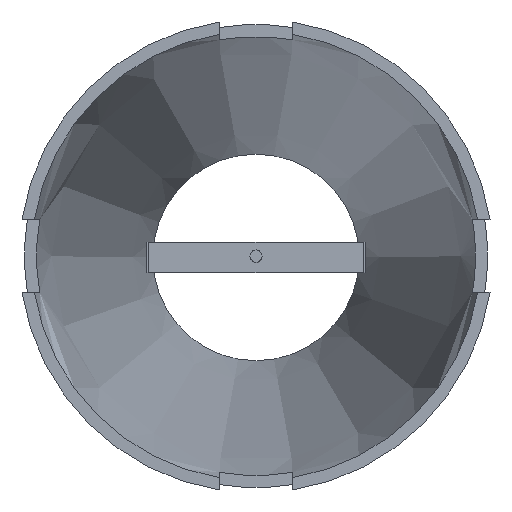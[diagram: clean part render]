
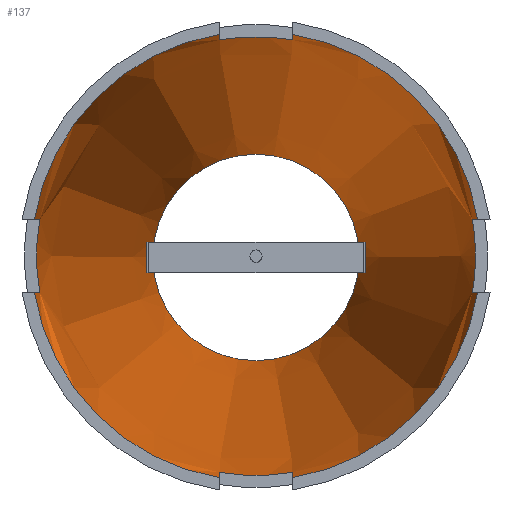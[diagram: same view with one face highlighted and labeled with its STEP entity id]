
A CAD part, top view. The second image highlights one B-rep face of the part: STEP entity #137.
In plain terms, the highlighted conical face has half-angle 8.306 degrees and reference radius 85 mm.
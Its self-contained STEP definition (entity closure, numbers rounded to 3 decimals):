
#137 = ADVANCED_FACE( '', ( #254, #255 ), #256, .F. );
#254 = FACE_OUTER_BOUND( '', #368, .T. );
#255 = FACE_BOUND( '', #369, .T. );
#256 = CONICAL_SURFACE( '', #370, 85., 0.145 );
#368 = EDGE_LOOP( '', ( #533, #534, #535, #536, #537, #538, #539, #540, #541, #542, #543, #544, #545, #546, #547, #548 ) );
#369 = EDGE_LOOP( '', ( #549 ) );
#370 = AXIS2_PLACEMENT_3D( '', #550, #551, #552 );
#533 = ORIENTED_EDGE( '', *, *, #775, .F. );
#534 = ORIENTED_EDGE( '', *, *, #776, .T. );
#535 = ORIENTED_EDGE( '', *, *, #772, .F. );
#536 = ORIENTED_EDGE( '', *, *, #746, .T. );
#537 = ORIENTED_EDGE( '', *, *, #777, .F. );
#538 = ORIENTED_EDGE( '', *, *, #778, .T. );
#539 = ORIENTED_EDGE( '', *, *, #729, .F. );
#540 = ORIENTED_EDGE( '', *, *, #779, .T. );
#541 = ORIENTED_EDGE( '', *, *, #780, .F. );
#542 = ORIENTED_EDGE( '', *, *, #781, .T. );
#543 = ORIENTED_EDGE( '', *, *, #782, .F. );
#544 = ORIENTED_EDGE( '', *, *, #783, .T. );
#545 = ORIENTED_EDGE( '', *, *, #734, .F. );
#546 = ORIENTED_EDGE( '', *, *, #743, .T. );
#547 = ORIENTED_EDGE( '', *, *, #784, .F. );
#548 = ORIENTED_EDGE( '', *, *, #766, .T. );
#549 = ORIENTED_EDGE( '', *, *, #785, .F. );
#550 = CARTESIAN_POINT( '', ( 0., 0., 0. ) );
#551 = DIRECTION( '', ( 0., 0., 1. ) );
#552 = DIRECTION( '', ( 1., 0., 0. ) );
#729 = EDGE_CURVE( '', #845, #847, #848, .T. );
#734 = EDGE_CURVE( '', #853, #856, #857, .T. );
#743 = EDGE_CURVE( '', #853, #869, #871, .T. );
#746 = EDGE_CURVE( '', #876, #873, #877, .T. );
#766 = EDGE_CURVE( '', #906, #908, #910, .T. );
#772 = EDGE_CURVE( '', #876, #918, #919, .T. );
#775 = EDGE_CURVE( '', #922, #908, #923, .T. );
#776 = EDGE_CURVE( '', #922, #918, #924, .T. );
#777 = EDGE_CURVE( '', #925, #873, #926, .T. );
#778 = EDGE_CURVE( '', #925, #847, #927, .T. );
#779 = EDGE_CURVE( '', #845, #928, #929, .T. );
#780 = EDGE_CURVE( '', #930, #928, #931, .T. );
#781 = EDGE_CURVE( '', #930, #932, #933, .T. );
#782 = EDGE_CURVE( '', #934, #932, #935, .T. );
#783 = EDGE_CURVE( '', #934, #856, #936, .T. );
#784 = EDGE_CURVE( '', #906, #869, #937, .T. );
#785 = EDGE_CURVE( '', #938, #938, #939, .T. );
#845 = VERTEX_POINT( '', #1013 );
#847 = VERTEX_POINT( '', #1016 );
#848 = B_SPLINE_CURVE_WITH_KNOTS( '', 3, ( #1017, #1018, #1019, #1020 ), .UNSPECIFIED., .F., .F., ( 4, 4 ), ( 0.276, 0.306 ), .UNSPECIFIED. );
#853 = VERTEX_POINT( '', #1029 );
#856 = VERTEX_POINT( '', #1033 );
#857 = B_SPLINE_CURVE_WITH_KNOTS( '', 3, ( #1034, #1035, #1036, #1037 ), .UNSPECIFIED., .F., .F., ( 4, 4 ), ( 0.28, 0.31 ), .UNSPECIFIED. );
#869 = VERTEX_POINT( '', #1053 );
#871 = CIRCLE( '', #1056, 180.621 );
#873 = VERTEX_POINT( '', #1058 );
#876 = VERTEX_POINT( '', #1062 );
#877 = CIRCLE( '', #1063, 185. );
#906 = VERTEX_POINT( '', #1111 );
#908 = VERTEX_POINT( '', #1114 );
#910 = CIRCLE( '', #1117, 185. );
#918 = VERTEX_POINT( '', #1128 );
#919 = B_SPLINE_CURVE_WITH_KNOTS( '', 3, ( #1129, #1130, #1131, #1132 ), .UNSPECIFIED., .F., .F., ( 4, 4 ), ( 0.276, 0.306 ), .UNSPECIFIED. );
#922 = VERTEX_POINT( '', #1136 );
#923 = B_SPLINE_CURVE_WITH_KNOTS( '', 3, ( #1137, #1138, #1139, #1140 ), .UNSPECIFIED., .F., .F., ( 4, 4 ), ( 0.28, 0.31 ), .UNSPECIFIED. );
#924 = CIRCLE( '', #1141, 180.621 );
#925 = VERTEX_POINT( '', #1142 );
#926 = B_SPLINE_CURVE_WITH_KNOTS( '', 3, ( #1143, #1144, #1145, #1146 ), .UNSPECIFIED., .F., .F., ( 4, 4 ), ( 0.28, 0.31 ), .UNSPECIFIED. );
#927 = CIRCLE( '', #1147, 180.621 );
#928 = VERTEX_POINT( '', #1148 );
#929 = CIRCLE( '', #1149, 185. );
#930 = VERTEX_POINT( '', #1150 );
#931 = B_SPLINE_CURVE_WITH_KNOTS( '', 3, ( #1151, #1152, #1153, #1154 ), .UNSPECIFIED., .F., .F., ( 4, 4 ), ( 0.28, 0.31 ), .UNSPECIFIED. );
#932 = VERTEX_POINT( '', #1155 );
#933 = CIRCLE( '', #1156, 180.621 );
#934 = VERTEX_POINT( '', #1157 );
#935 = B_SPLINE_CURVE_WITH_KNOTS( '', 3, ( #1158, #1159, #1160, #1161 ), .UNSPECIFIED., .F., .F., ( 4, 4 ), ( 0.276, 0.306 ), .UNSPECIFIED. );
#936 = CIRCLE( '', #1162, 185. );
#937 = B_SPLINE_CURVE_WITH_KNOTS( '', 3, ( #1163, #1164, #1165, #1166 ), .UNSPECIFIED., .F., .F., ( 4, 4 ), ( 0.276, 0.306 ), .UNSPECIFIED. );
#938 = VERTEX_POINT( '', #1167 );
#939 = CIRCLE( '', #1168, 85. );
#1013 = CARTESIAN_POINT( '', ( -182.552, -30., 685. ) );
#1016 = CARTESIAN_POINT( '', ( -178.112, -30., 655. ) );
#1017 = CARTESIAN_POINT( '', ( -182.552, -30., 685. ) );
#1018 = CARTESIAN_POINT( '', ( -181.072, -30., 675. ) );
#1019 = CARTESIAN_POINT( '', ( -179.592, -30., 665. ) );
#1020 = CARTESIAN_POINT( '', ( -178.112, -30., 655. ) );
#1029 = CARTESIAN_POINT( '', ( 178.112, -30., 655. ) );
#1033 = CARTESIAN_POINT( '', ( 182.552, -30., 685. ) );
#1034 = CARTESIAN_POINT( '', ( 178.112, -30., 655. ) );
#1035 = CARTESIAN_POINT( '', ( 179.592, -30., 665. ) );
#1036 = CARTESIAN_POINT( '', ( 181.072, -30., 675. ) );
#1037 = CARTESIAN_POINT( '', ( 182.552, -30., 685. ) );
#1053 = CARTESIAN_POINT( '', ( 178.112, 30., 655. ) );
#1056 = AXIS2_PLACEMENT_3D( '', #1256, #1257, #1258 );
#1058 = CARTESIAN_POINT( '', ( -182.552, 30., 685. ) );
#1062 = CARTESIAN_POINT( '', ( -30., 182.552, 685. ) );
#1063 = AXIS2_PLACEMENT_3D( '', #1260, #1261, #1262 );
#1111 = CARTESIAN_POINT( '', ( 182.552, 30., 685. ) );
#1114 = CARTESIAN_POINT( '', ( 30., 182.552, 685. ) );
#1117 = AXIS2_PLACEMENT_3D( '', #1290, #1291, #1292 );
#1128 = CARTESIAN_POINT( '', ( -30., 178.112, 655. ) );
#1129 = CARTESIAN_POINT( '', ( -30., 182.552, 685. ) );
#1130 = CARTESIAN_POINT( '', ( -30., 181.072, 675. ) );
#1131 = CARTESIAN_POINT( '', ( -30., 179.592, 665. ) );
#1132 = CARTESIAN_POINT( '', ( -30., 178.112, 655. ) );
#1136 = CARTESIAN_POINT( '', ( 30., 178.112, 655. ) );
#1137 = CARTESIAN_POINT( '', ( 30., 178.112, 655. ) );
#1138 = CARTESIAN_POINT( '', ( 30., 179.592, 665. ) );
#1139 = CARTESIAN_POINT( '', ( 30., 181.072, 675. ) );
#1140 = CARTESIAN_POINT( '', ( 30., 182.552, 685. ) );
#1141 = AXIS2_PLACEMENT_3D( '', #1297, #1298, #1299 );
#1142 = CARTESIAN_POINT( '', ( -178.112, 30., 655. ) );
#1143 = CARTESIAN_POINT( '', ( -178.112, 30., 655. ) );
#1144 = CARTESIAN_POINT( '', ( -179.592, 30., 665. ) );
#1145 = CARTESIAN_POINT( '', ( -181.072, 30., 675. ) );
#1146 = CARTESIAN_POINT( '', ( -182.552, 30., 685. ) );
#1147 = AXIS2_PLACEMENT_3D( '', #1300, #1301, #1302 );
#1148 = CARTESIAN_POINT( '', ( -30., -182.552, 685. ) );
#1149 = AXIS2_PLACEMENT_3D( '', #1303, #1304, #1305 );
#1150 = CARTESIAN_POINT( '', ( -30., -178.112, 655. ) );
#1151 = CARTESIAN_POINT( '', ( -30., -178.112, 655. ) );
#1152 = CARTESIAN_POINT( '', ( -30., -179.592, 665. ) );
#1153 = CARTESIAN_POINT( '', ( -30., -181.072, 675. ) );
#1154 = CARTESIAN_POINT( '', ( -30., -182.552, 685. ) );
#1155 = CARTESIAN_POINT( '', ( 30., -178.112, 655. ) );
#1156 = AXIS2_PLACEMENT_3D( '', #1306, #1307, #1308 );
#1157 = CARTESIAN_POINT( '', ( 30., -182.552, 685. ) );
#1158 = CARTESIAN_POINT( '', ( 30., -182.552, 685. ) );
#1159 = CARTESIAN_POINT( '', ( 30., -181.072, 675. ) );
#1160 = CARTESIAN_POINT( '', ( 30., -179.592, 665. ) );
#1161 = CARTESIAN_POINT( '', ( 30., -178.112, 655. ) );
#1162 = AXIS2_PLACEMENT_3D( '', #1309, #1310, #1311 );
#1163 = CARTESIAN_POINT( '', ( 182.552, 30., 685. ) );
#1164 = CARTESIAN_POINT( '', ( 181.072, 30., 675. ) );
#1165 = CARTESIAN_POINT( '', ( 179.592, 30., 665. ) );
#1166 = CARTESIAN_POINT( '', ( 178.112, 30., 655. ) );
#1167 = CARTESIAN_POINT( '', ( 85., 0., 0. ) );
#1168 = AXIS2_PLACEMENT_3D( '', #1312, #1313, #1314 );
#1256 = CARTESIAN_POINT( '', ( 0., 0., 655. ) );
#1257 = DIRECTION( '', ( 0., 0., 1. ) );
#1258 = DIRECTION( '', ( 1., 0., 0. ) );
#1260 = CARTESIAN_POINT( '', ( 0., 0., 685. ) );
#1261 = DIRECTION( '', ( 0., 0., 1. ) );
#1262 = DIRECTION( '', ( 1., 0., 0. ) );
#1290 = CARTESIAN_POINT( '', ( 0., 0., 685. ) );
#1291 = DIRECTION( '', ( 0., 0., 1. ) );
#1292 = DIRECTION( '', ( 1., 0., 0. ) );
#1297 = CARTESIAN_POINT( '', ( 0., 0., 655. ) );
#1298 = DIRECTION( '', ( 0., 0., 1. ) );
#1299 = DIRECTION( '', ( 1., 0., 0. ) );
#1300 = CARTESIAN_POINT( '', ( 0., 0., 655. ) );
#1301 = DIRECTION( '', ( 0., 0., 1. ) );
#1302 = DIRECTION( '', ( 1., 0., 0. ) );
#1303 = CARTESIAN_POINT( '', ( 0., 0., 685. ) );
#1304 = DIRECTION( '', ( 0., 0., 1. ) );
#1305 = DIRECTION( '', ( 1., 0., 0. ) );
#1306 = CARTESIAN_POINT( '', ( 0., 0., 655. ) );
#1307 = DIRECTION( '', ( 0., 0., 1. ) );
#1308 = DIRECTION( '', ( 1., 0., 0. ) );
#1309 = CARTESIAN_POINT( '', ( 0., 0., 685. ) );
#1310 = DIRECTION( '', ( 0., 0., 1. ) );
#1311 = DIRECTION( '', ( 1., 0., 0. ) );
#1312 = CARTESIAN_POINT( '', ( 0., 0., 0. ) );
#1313 = DIRECTION( '', ( 0., 0., 1. ) );
#1314 = DIRECTION( '', ( 1., 0., 0. ) );
